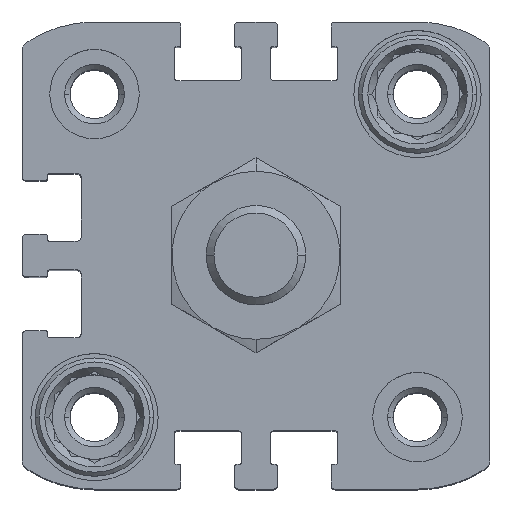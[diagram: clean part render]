
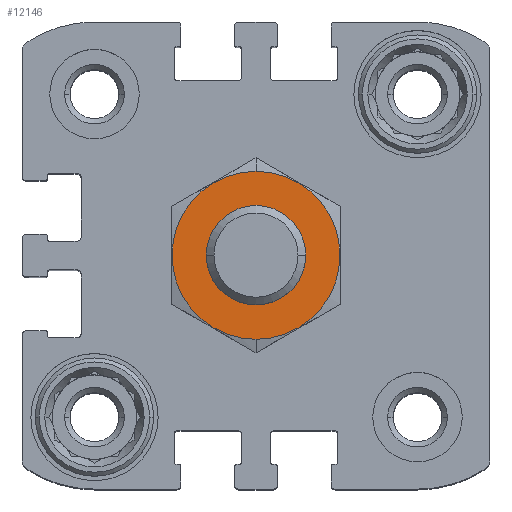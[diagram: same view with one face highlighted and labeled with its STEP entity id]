
A CAD part, top view. The second image highlights one B-rep face of the part: STEP entity #12146.
In plain terms, the highlighted planar face has unit normal (0, 0, 1).
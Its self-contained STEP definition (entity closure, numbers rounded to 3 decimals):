
#610 = AXIS2_PLACEMENT_3D ( 'NONE', #14721, #5267, #13235 ) ;
#1526 = EDGE_CURVE ( 'NONE', #4106, #4042, #8593, .T. ) ;
#1845 = CIRCLE ( 'NONE', #2413, 5. ) ;
#1950 = ORIENTED_EDGE ( 'NONE', *, *, #1967, .F. ) ;
#1967 = EDGE_CURVE ( 'NONE', #2803, #2186, #9572, .T. ) ;
#1994 = CARTESIAN_POINT ( 'NONE',  ( 0., 8.45, 15.75 ) ) ;
#2186 = VERTEX_POINT ( 'NONE', #1994 ) ;
#2246 = ORIENTED_EDGE ( 'NONE', *, *, #16937, .F. ) ;
#2365 = CARTESIAN_POINT ( 'NONE',  ( 0., 0., 15.75 ) ) ;
#2413 = AXIS2_PLACEMENT_3D ( 'NONE', #11096, #16276, #13810 ) ;
#2803 = VERTEX_POINT ( 'NONE', #13261 ) ;
#2859 = ORIENTED_EDGE ( 'NONE', *, *, #1526, .T. ) ;
#3854 = FACE_OUTER_BOUND ( 'NONE', #10476, .T. ) ;
#3960 = CIRCLE ( 'NONE', #4522, 8.45 ) ;
#4042 = VERTEX_POINT ( 'NONE', #11588 ) ;
#4106 = VERTEX_POINT ( 'NONE', #4749 ) ;
#4522 = AXIS2_PLACEMENT_3D ( 'NONE', #4632, #15319, #5873 ) ;
#4632 = CARTESIAN_POINT ( 'NONE',  ( 0., 0., 15.75 ) ) ;
#4749 = CARTESIAN_POINT ( 'NONE',  ( 0., 5., 15.75 ) ) ;
#4929 = ORIENTED_EDGE ( 'NONE', *, *, #10534, .T. ) ;
#5101 = DIRECTION ( 'NONE',  ( 0., 1., 0. ) ) ;
#5267 = DIRECTION ( 'NONE',  ( 0., 0., -1. ) ) ;
#5374 = DIRECTION ( 'NONE',  ( 0., 0., -1. ) ) ;
#5648 = AXIS2_PLACEMENT_3D ( 'NONE', #2365, #17368, #5101 ) ;
#5873 = DIRECTION ( 'NONE',  ( 0., 1., 0. ) ) ;
#6684 = DIRECTION ( 'NONE',  ( 0., 1., 0. ) ) ;
#7546 = EDGE_LOOP ( 'NONE', ( #4929, #2859 ) ) ;
#8593 = CIRCLE ( 'NONE', #9706, 5. ) ;
#9572 = CIRCLE ( 'NONE', #5648, 8.45 ) ;
#9706 = AXIS2_PLACEMENT_3D ( 'NONE', #11781, #5374, #6684 ) ;
#10476 = EDGE_LOOP ( 'NONE', ( #2246, #1950 ) ) ;
#10534 = EDGE_CURVE ( 'NONE', #4042, #4106, #1845, .T. ) ;
#11096 = CARTESIAN_POINT ( 'NONE',  ( 0., 0., 15.75 ) ) ;
#11588 = CARTESIAN_POINT ( 'NONE',  ( 0., -5., 15.75 ) ) ;
#11781 = CARTESIAN_POINT ( 'NONE',  ( 0., 0., 15.75 ) ) ;
#12146 = ADVANCED_FACE ( 'NONE', ( #3854, #14546 ), #16226, .F. ) ;
#13235 = DIRECTION ( 'NONE',  ( 0., 1., 0. ) ) ;
#13261 = CARTESIAN_POINT ( 'NONE',  ( 0., -8.45, 15.75 ) ) ;
#13810 = DIRECTION ( 'NONE',  ( 0., 1., 0. ) ) ;
#14546 = FACE_BOUND ( 'NONE', #7546, .T. ) ;
#14721 = CARTESIAN_POINT ( 'NONE',  ( 0., 0., 15.75 ) ) ;
#15319 = DIRECTION ( 'NONE',  ( 0., 0., -1. ) ) ;
#16226 = PLANE ( 'NONE',  #610 ) ;
#16276 = DIRECTION ( 'NONE',  ( 0., 0., -1. ) ) ;
#16937 = EDGE_CURVE ( 'NONE', #2186, #2803, #3960, .T. ) ;
#17368 = DIRECTION ( 'NONE',  ( 0., 0., -1. ) ) ;
